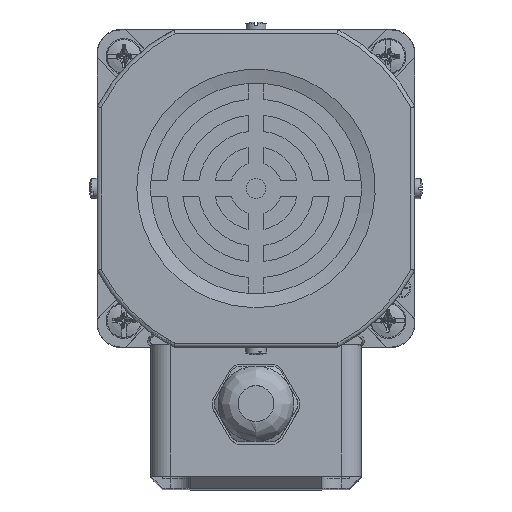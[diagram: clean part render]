
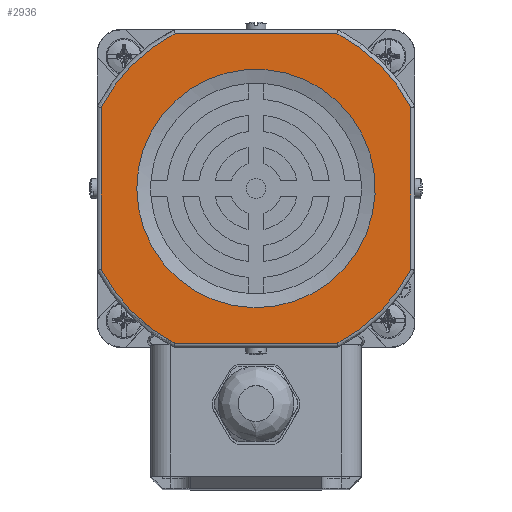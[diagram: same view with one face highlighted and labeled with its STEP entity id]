
A CAD part, left-side view. The second image highlights one B-rep face of the part: STEP entity #2936.
In plain terms, the highlighted planar face has unit normal (-1, 0, 0).
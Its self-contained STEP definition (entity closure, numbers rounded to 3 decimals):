
#2936=ADVANCED_FACE('',(#5698,#5699),#3875,.F.);
#3875=PLANE('',#17359);
#4336=LINE('',#22430,#5073);
#4337=LINE('',#22435,#5074);
#4338=LINE('',#22439,#5075);
#4339=LINE('',#22443,#5076);
#5073=VECTOR('',#18972,1.);
#5074=VECTOR('',#18975,1.);
#5075=VECTOR('',#18978,1.);
#5076=VECTOR('',#18981,1.);
#5698=FACE_BOUND('',#6194,.T.);
#5699=FACE_BOUND('',#6195,.T.);
#6194=EDGE_LOOP('',(#7813));
#6195=EDGE_LOOP('',(#7814,#7815,#7816,#7817,#7818,#7819,#7820,#7821));
#7813=ORIENTED_EDGE('',*,*,#14239,.T.);
#7814=ORIENTED_EDGE('',*,*,#14240,.T.);
#7815=ORIENTED_EDGE('',*,*,#14241,.T.);
#7816=ORIENTED_EDGE('',*,*,#14242,.T.);
#7817=ORIENTED_EDGE('',*,*,#14243,.T.);
#7818=ORIENTED_EDGE('',*,*,#14244,.T.);
#7819=ORIENTED_EDGE('',*,*,#14245,.T.);
#7820=ORIENTED_EDGE('',*,*,#14246,.T.);
#7821=ORIENTED_EDGE('',*,*,#14247,.T.);
#12471=VERTEX_POINT('',#22429);
#12472=VERTEX_POINT('',#22431);
#12473=VERTEX_POINT('',#22432);
#12474=VERTEX_POINT('',#22434);
#12475=VERTEX_POINT('',#22436);
#12476=VERTEX_POINT('',#22438);
#12477=VERTEX_POINT('',#22440);
#12478=VERTEX_POINT('',#22442);
#12479=VERTEX_POINT('',#22444);
#14239=EDGE_CURVE('',#12471,#12471,#16682,.T.);
#14240=EDGE_CURVE('',#12472,#12473,#4336,.T.);
#14241=EDGE_CURVE('',#12473,#12474,#16683,.T.);
#14242=EDGE_CURVE('',#12474,#12475,#4337,.T.);
#14243=EDGE_CURVE('',#12475,#12476,#16684,.T.);
#14244=EDGE_CURVE('',#12476,#12477,#4338,.T.);
#14245=EDGE_CURVE('',#12477,#12478,#16685,.T.);
#14246=EDGE_CURVE('',#12478,#12479,#4339,.T.);
#14247=EDGE_CURVE('',#12479,#12472,#16686,.T.);
#16682=CIRCLE('',#17354,30.);
#16683=CIRCLE('',#17355,44.);
#16684=CIRCLE('',#17356,44.);
#16685=CIRCLE('',#17357,44.);
#16686=CIRCLE('',#17358,44.);
#17354=AXIS2_PLACEMENT_3D('',#22428,#18970,#18971);
#17355=AXIS2_PLACEMENT_3D('',#22433,#18973,#18974);
#17356=AXIS2_PLACEMENT_3D('',#22437,#18976,#18977);
#17357=AXIS2_PLACEMENT_3D('',#22441,#18979,#18980);
#17358=AXIS2_PLACEMENT_3D('',#22445,#18982,#18983);
#17359=AXIS2_PLACEMENT_3D('',#22446,#18984,#18985);
#18970=DIRECTION('',(1.,0.,0.));
#18971=DIRECTION('',(0.,1.,0.));
#18972=DIRECTION('',(0.,1.,0.));
#18973=DIRECTION('',(-1.,0.,0.));
#18974=DIRECTION('',(0.,0.,-1.));
#18975=DIRECTION('',(0.,0.,-1.));
#18976=DIRECTION('',(-1.,0.,0.));
#18977=DIRECTION('',(0.,0.,-1.));
#18978=DIRECTION('',(0.,-1.,0.));
#18979=DIRECTION('',(-1.,0.,0.));
#18980=DIRECTION('',(0.,0.,-1.));
#18981=DIRECTION('',(0.,0.,1.));
#18982=DIRECTION('',(-1.,0.,0.));
#18983=DIRECTION('',(0.,0.,-1.));
#18984=DIRECTION('',(1.,0.,0.));
#18985=DIRECTION('',(0.,0.,-1.));
#22428=CARTESIAN_POINT('',(-102.,40.,40.));
#22429=CARTESIAN_POINT('',(-102.,70.,40.));
#22430=CARTESIAN_POINT('',(-102.,60.616,79.));
#22431=CARTESIAN_POINT('',(-102.,19.628,79.));
#22432=CARTESIAN_POINT('',(-102.,60.372,79.));
#22433=CARTESIAN_POINT('',(-102.,40.,40.));
#22434=CARTESIAN_POINT('',(-102.,79.,60.372));
#22435=CARTESIAN_POINT('',(-102.,79.,19.384));
#22436=CARTESIAN_POINT('',(-102.,79.,19.628));
#22437=CARTESIAN_POINT('',(-102.,40.,40.));
#22438=CARTESIAN_POINT('',(-102.,60.372,1.));
#22439=CARTESIAN_POINT('',(-102.,19.384,1.));
#22440=CARTESIAN_POINT('',(-102.,19.628,1.));
#22441=CARTESIAN_POINT('',(-102.,40.,40.));
#22442=CARTESIAN_POINT('',(-102.,1.,19.628));
#22443=CARTESIAN_POINT('',(-102.,1.,60.616));
#22444=CARTESIAN_POINT('',(-102.,1.,60.372));
#22445=CARTESIAN_POINT('',(-102.,40.,40.));
#22446=CARTESIAN_POINT('',(-102.,40.,40.));
